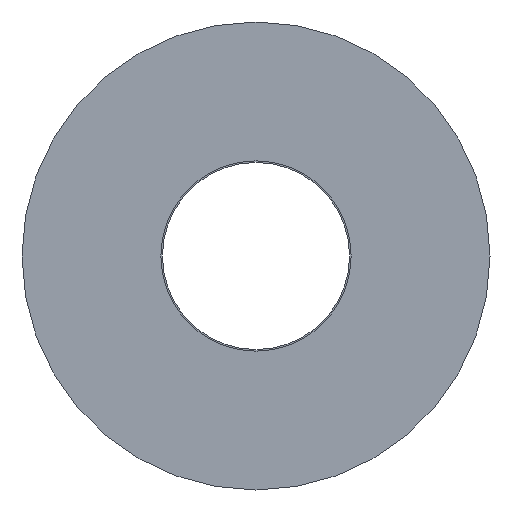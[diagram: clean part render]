
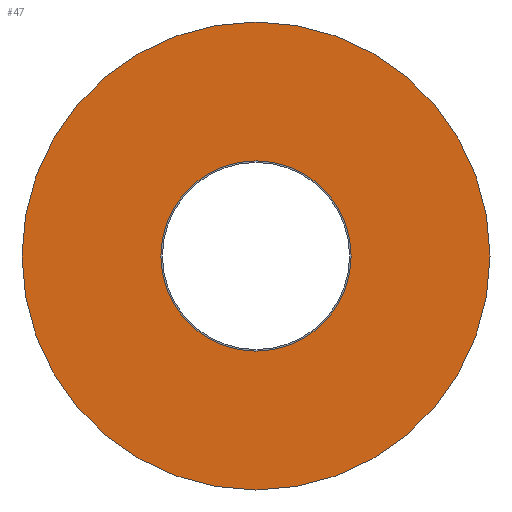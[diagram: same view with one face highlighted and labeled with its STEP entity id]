
A CAD part, left-side view. The second image highlights one B-rep face of the part: STEP entity #47.
In plain terms, the highlighted planar face has unit normal (-1, 0, 0).
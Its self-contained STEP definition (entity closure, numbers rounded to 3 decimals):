
#47=ADVANCED_FACE('',(#66,#67),#52,.F.);
#52=PLANE('',#159);
#66=FACE_BOUND('',#86,.T.);
#67=FACE_BOUND('',#87,.T.);
#86=EDGE_LOOP('',(#106));
#87=EDGE_LOOP('',(#107));
#106=ORIENTED_EDGE('',*,*,#131,.F.);
#107=ORIENTED_EDGE('',*,*,#130,.T.);
#120=VERTEX_POINT('',#226);
#121=VERTEX_POINT('',#229);
#130=EDGE_CURVE('',#120,#120,#140,.T.);
#131=EDGE_CURVE('',#121,#121,#141,.T.);
#140=CIRCLE('',#156,15.);
#141=CIRCLE('',#158,6.1);
#156=AXIS2_PLACEMENT_3D('',#225,#189,#190);
#158=AXIS2_PLACEMENT_3D('',#228,#193,#194);
#159=AXIS2_PLACEMENT_3D('',#230,#195,#196);
#189=DIRECTION('',(-1.,0.,0.));
#190=DIRECTION('',(0.,0.,1.));
#193=DIRECTION('',(-1.,0.,0.));
#194=DIRECTION('',(0.,0.,1.));
#195=DIRECTION('',(1.,0.,0.));
#196=DIRECTION('',(0.,0.,-1.));
#225=CARTESIAN_POINT('',(0.,0.,0.));
#226=CARTESIAN_POINT('',(0.,0.,15.));
#228=CARTESIAN_POINT('',(0.,0.,0.));
#229=CARTESIAN_POINT('',(0.,0.,6.1));
#230=CARTESIAN_POINT('',(0.,15.,0.));
